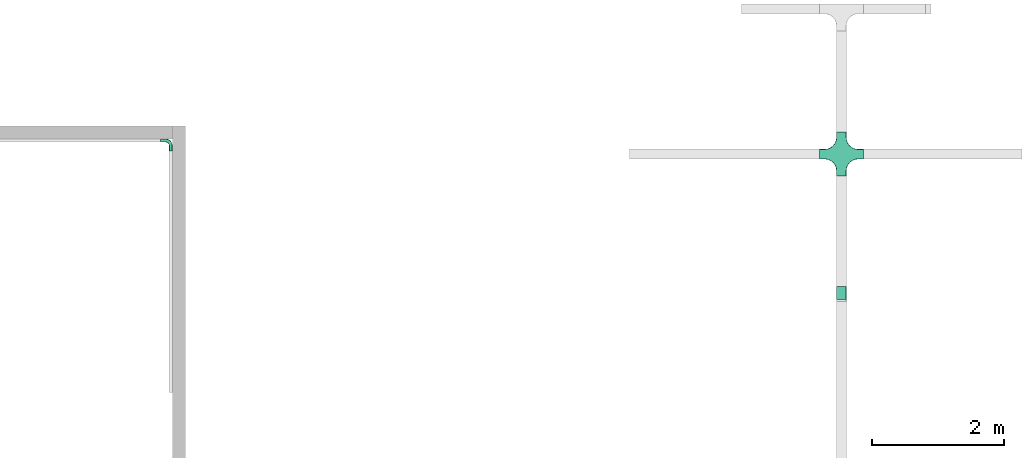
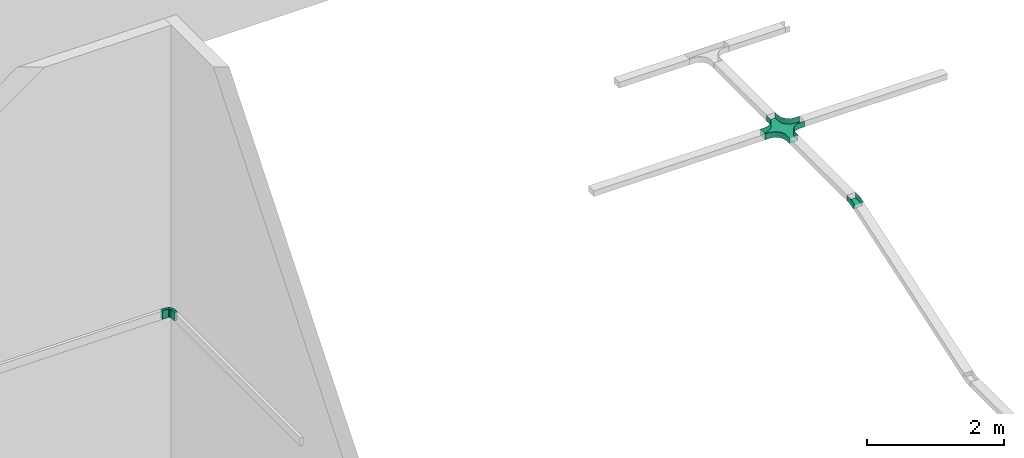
# One storey, part 41 of 197: 3 flow fittings.
"""IFC2X3 building model written with IfcOpenShell, lengths in metres."""

from ifc_helpers import new_model, entity, si_unit, converted_unit, direction, frame, origin, place, context, subcontext, project, spatial, faceted_brep, source, transform, mapped, material, type_object, type_shapes, element, save


model = new_model("IFC2X3")

# Units and contexts
model_context = context("Model", 3, precision=1e-05, world=origin(), true_north=direction((6.123031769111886e-17, 1.0)))
body_context = subcontext(model_context, "Body", "Model", "MODEL_VIEW")
ifc_project = project(units=[si_unit("LENGTHUNIT", "METRE"), converted_unit("PLANEANGLEUNIT", "DEGREE", entity("IfcPlaneAngleMeasure", 0.017453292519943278), si_unit("PLANEANGLEUNIT", "RADIAN"), dimensions=[0, 0, 0, 0, 0, 0, 0]), si_unit("AREAUNIT", "SQUARE_METRE")], contexts=[model_context])

# Site, building, storey
site_placement = place(None, origin())
site = spatial("IfcSite", under=ifc_project, at=site_placement, Name="Default", CompositionType="ELEMENT")
building_placement = place(site_placement, origin())
building = spatial("IfcBuilding", under=site, at=building_placement, CompositionType="ELEMENT")
storey_placement = place(building_placement, origin())
storey = spatial("IfcBuildingStorey", under=building, at=storey_placement, Name="Niveau 0", CompositionType="ELEMENT", Elevation=0.0)

# Flow fittings
ifc_material = material(Name="<Unnamed>")
cable_carrier_fitting_type_1 = type_object("IfcCableCarrierFittingType", Name="Chemin de câbles - Courbure convexe:CDC CFA", PredefinedType="NOTDEFINED", material=ifc_material)
shared_shape_1 = source(origin(), body_context, "Body", "Brep", [
    faceted_brep([(-0.10757218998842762, -0.050000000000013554, -0.07500000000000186), (-0.10757218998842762, -0.050000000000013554, -0.07246000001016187), (-0.10757218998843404, 0.04746000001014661, -0.07246000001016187), (-0.10757218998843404, 0.047460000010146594, 0.07246000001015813), (-0.10757218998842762, -0.050000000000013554, 0.07246000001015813), (-0.10757218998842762, -0.050000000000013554, 0.07499999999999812), (-0.10757218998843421, 0.04999999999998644, 0.07499999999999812), (-0.10757218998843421, 0.04999999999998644, -0.07500000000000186), (-0.03257218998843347, -0.050000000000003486, 0.07499999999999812), (-0.023983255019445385, -0.04930517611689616, 0.07499999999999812), (-0.012479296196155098, -0.04837453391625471, 0.07499999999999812), (-0.0024328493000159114, -0.04756180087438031, 0.07499999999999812), (0.007613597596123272, -0.046749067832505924, 0.07499999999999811), (0.01739876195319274, -0.04433200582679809, 0.07499999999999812), (0.027183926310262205, -0.04191494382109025, 0.07499999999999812), (0.03838869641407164, -0.03914722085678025, 0.07499999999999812), (0.0467542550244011, -0.03708081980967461, 0.07499999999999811), (0.11787850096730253, -0.013282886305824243, 0.0749999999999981), (0.08614792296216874, 0.08154944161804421, 0.0749999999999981), (0.015023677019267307, 0.05775150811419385, 0.07499999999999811), (-0.008460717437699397, 0.05195055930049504, 0.07499999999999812), (-0.03257218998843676, 0.04999999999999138, 0.07499999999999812), (-0.03257218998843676, 0.04999999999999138, -0.07500000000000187), (-0.008460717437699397, 0.05195055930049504, -0.07500000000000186), (0.015023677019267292, 0.05775150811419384, -0.07500000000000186), (0.08614792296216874, 0.0815494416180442, -0.07500000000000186), (0.11787850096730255, -0.013282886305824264, -0.07500000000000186), (0.04675425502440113, -0.03708081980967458, -0.07500000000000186), (0.038388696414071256, -0.03914722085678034, -0.07500000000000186), (0.027183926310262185, -0.04191494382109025, -0.07500000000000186), (0.01739876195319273, -0.04433200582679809, -0.07500000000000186), (0.007613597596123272, -0.046749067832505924, -0.07500000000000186), (-0.003890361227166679, -0.047679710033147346, -0.07500000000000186), (-0.01539432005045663, -0.048610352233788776, -0.07500000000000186), (-0.03257218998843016, -0.050000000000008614, -0.07500000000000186), (-0.03257218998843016, -0.050000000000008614, -0.07246000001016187), (-0.03257218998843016, -0.050000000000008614, 0.07246000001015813), (-0.022525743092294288, -0.0491872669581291, -0.07246000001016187), (-0.012479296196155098, -0.04837453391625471, -0.07246000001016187), (-0.002432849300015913, -0.04756180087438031, -0.07246000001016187), (0.007613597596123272, -0.046749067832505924, -0.07246000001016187), (0.017398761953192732, -0.04433200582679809, -0.07246000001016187), (0.0271839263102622, -0.04191494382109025, -0.07246000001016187), (0.036969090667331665, -0.03949788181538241, -0.07246000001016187), (0.0467542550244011, -0.03708081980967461, -0.07246000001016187), (0.11787850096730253, -0.013282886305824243, -0.07246000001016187), (0.08695387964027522, 0.07914070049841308, -0.07246000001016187), (0.015829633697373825, 0.055342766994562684, -0.07246000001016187), (-0.008052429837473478, 0.049443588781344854, -0.07246000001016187), (-0.03257218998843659, 0.047460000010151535, -0.07246000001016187), (-0.03257218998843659, 0.04746000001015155, 0.07246000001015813), (-0.008052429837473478, 0.049443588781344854, 0.07246000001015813), (0.015829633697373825, 0.05534276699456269, 0.07246000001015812), (0.08695387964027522, 0.07914070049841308, 0.07246000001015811), (0.11787850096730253, -0.013282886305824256, 0.07246000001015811), (0.04675425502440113, -0.03708081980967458, 0.07246000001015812), (0.036969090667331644, -0.03949788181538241, 0.07246000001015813), (0.027183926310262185, -0.04191494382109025, 0.07246000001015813), (0.017398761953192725, -0.04433200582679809, 0.07246000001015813), (0.007613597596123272, -0.046749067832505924, 0.07246000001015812), (-0.0024328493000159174, -0.04756180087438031, 0.07246000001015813), (-0.012479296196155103, -0.04837453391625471, 0.07246000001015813), (-0.022525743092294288, -0.0491872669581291, 0.07246000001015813)], [[[0, 1, 2, 3, 4, 5, 6, 7]], [[5, 8, 9, 10, 11, 12, 13, 14, 15, 16, 17, 18, 19, 20, 21, 6]], [[7, 6, 21, 22]], [[7, 22, 23, 24, 25, 26, 27, 28, 29, 30, 31, 32, 33, 34, 0]], [[1, 0, 34, 35]], [[5, 4, 36, 8]], [[1, 35, 37, 38, 39, 40, 41, 42, 43, 44, 45, 46, 47, 48, 49, 2]], [[3, 2, 49, 50]], [[3, 50, 51, 52, 53, 54, 55, 56, 57, 58, 59, 60, 61, 62, 36, 4]], [[22, 21, 20, 23]], [[19, 24, 23, 20]], [[33, 32, 31, 40, 39, 38, 37, 35, 34]], [[61, 60, 59, 12, 11, 10, 9, 8, 36, 62]], [[42, 41, 40, 31, 30, 29, 28, 27, 44, 43]], [[12, 59, 58, 57, 56, 55, 16, 15, 14, 13]], [[51, 50, 49, 48]], [[51, 48, 47, 52]], [[25, 18, 17, 54, 53, 46, 45, 26]], [[24, 19, 18, 25]], [[44, 27, 26, 45]], [[16, 55, 54, 17]], [[52, 47, 46, 53]]]),
])
type_shapes(cable_carrier_fitting_type_1, [shared_shape_1])
flow_fitting_1_placement = place(storey_placement, frame((-510.12398006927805, 149.4978039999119, 2.7499999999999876), z_axis=(-1.0, 0.0, 0.0), x_axis=(0.0, 0.9483232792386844, 0.31730578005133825)))
element("IfcFlowFitting", 1, at=flow_fitting_1_placement, inside=storey, type_object=cable_carrier_fitting_type_1, material=ifc_material, Name="Chemin de câbles - Courbure convexe:CDC CFA", ObjectType="Chemin de câbles - Courbure convexe:CDC CFA", context=body_context, shape_type="MappedRepresentation", body=[
    mapped(shared_shape_1, transform((0.0, 0.0, 0.0), scale=1.0)),
])
cable_carrier_fitting_type_2 = type_object("IfcCableCarrierFittingType", Name="Chemin de câbles - Croix:CDC CFA", PredefinedType="NOTDEFINED", material=ifc_material)
shared_shape_2 = source(origin(), body_context, "Body", "Brep", [
    faceted_brep([(-0.0811333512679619, 0.20841257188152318, 0.04999999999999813), (-0.0991154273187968, 0.1649999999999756, 0.04999999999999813), (-0.12772077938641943, 0.1277207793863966, 0.04999999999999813), (-0.1650000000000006, 0.09911542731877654, 0.04999999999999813), (-0.20841257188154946, 0.08113335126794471, 0.04999999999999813), (-0.25500000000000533, 0.07499999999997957, 0.04999999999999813), (-0.3349999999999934, 0.07499999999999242, 0.04999999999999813), (-0.3349999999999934, 0.07246000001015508, 0.04999999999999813), (-0.255000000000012, 0.07246000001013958, 0.04999999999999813), (-0.2077551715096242, 0.07867989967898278, 0.04999999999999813), (-0.1637300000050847, 0.09691572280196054, 0.04999999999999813), (-0.12592472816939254, 0.12592472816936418, 0.04999999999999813), (-0.09691572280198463, 0.16373000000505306, 0.04999999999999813), (-0.078679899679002, 0.20775517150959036, 0.04999999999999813), (-0.07246000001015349, 0.25499999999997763, 0.04999999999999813), (-0.07246000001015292, 0.3349999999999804, 0.04999999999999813), (-0.07499999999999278, 0.3349999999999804, 0.04999999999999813), (-0.07499999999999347, 0.25499999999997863, 0.04999999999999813), (0.20841257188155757, -0.08113335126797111, 0.04999999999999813), (0.2550000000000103, -0.07500000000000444, 0.04999999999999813), (0.33500000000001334, -0.07500000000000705, 0.04999999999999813), (0.33500000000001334, -0.07246000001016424, 0.04999999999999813), (0.2550000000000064, -0.07246000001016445, 0.04999999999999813), (0.2077551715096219, -0.07867989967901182, 0.04999999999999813), (0.16373000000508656, -0.09691572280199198, 0.04999999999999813), (0.12592472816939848, -0.12592472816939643, 0.04999999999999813), (0.09691572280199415, -0.16373000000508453, 0.04999999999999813), (0.07867989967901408, -0.20775517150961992, 0.04999999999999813), (0.0724600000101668, -0.25500000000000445, 0.04999999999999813), (0.0724600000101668, -0.33500000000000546, 0.04999999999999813), (0.0750000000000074, -0.33500000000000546, 0.04999999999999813), (0.07500000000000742, -0.2550000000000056, 0.04999999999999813), (0.08113335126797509, -0.20841257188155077, 0.04999999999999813), (0.09911542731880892, -0.16500000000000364, 0.04999999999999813), (0.12772077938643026, -0.1277207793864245, 0.04999999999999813), (0.16500000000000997, -0.09911542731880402, 0.04999999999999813), (-0.2549999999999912, -0.07246000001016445, 0.04999999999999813), (-0.3349999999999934, -0.07246000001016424, 0.04999999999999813), (-0.3349999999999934, -0.07500000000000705, 0.04999999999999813), (-0.254999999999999, -0.07500000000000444, 0.04999999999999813), (-0.20841257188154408, -0.0811333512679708, 0.04999999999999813), (-0.1649999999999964, -0.0991154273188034, 0.04999999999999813), (-0.12772077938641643, -0.12772077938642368, 0.04999999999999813), (-0.09911542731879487, -0.16500000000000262, 0.04999999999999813), (-0.08113335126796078, -0.20841257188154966, 0.04999999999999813), (-0.0749999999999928, -0.25500000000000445, 0.04999999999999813), (-0.07499999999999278, -0.33500000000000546, 0.04999999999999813), (-0.07246000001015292, -0.33500000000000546, 0.04999999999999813), (-0.0724600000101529, -0.2550000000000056, 0.04999999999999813), (-0.07867989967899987, -0.20775517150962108, 0.04999999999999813), (-0.09691572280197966, -0.16373000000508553, 0.04999999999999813), (-0.12592472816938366, -0.12592472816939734, 0.04999999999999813), (-0.16373000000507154, -0.09691572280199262, 0.04999999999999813), (-0.2077551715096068, -0.07867989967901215, 0.04999999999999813), (0.0750000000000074, 0.3349999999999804, 0.04999999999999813), (0.0724600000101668, 0.3349999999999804, 0.04999999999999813), (0.07246000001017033, 0.254999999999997, 0.04999999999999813), (0.0786798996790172, 0.207755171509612, 0.04999999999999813), (0.09691572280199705, 0.1637300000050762, 0.04999999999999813), (0.1259247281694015, 0.1259247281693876, 0.04999999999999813), (0.16373000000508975, 0.09691572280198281, 0.04999999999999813), (0.20775517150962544, 0.07867989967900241, 0.04999999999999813), (0.2550000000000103, 0.07246000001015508, 0.04999999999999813), (0.33500000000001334, 0.07246000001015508, 0.04999999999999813), (0.33500000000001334, 0.07499999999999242, 0.04999999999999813), (0.2550000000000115, 0.07499999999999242, 0.04999999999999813), (0.2084125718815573, 0.08113335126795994, 0.04999999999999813), (0.16500000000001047, 0.09911542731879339, 0.04999999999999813), (0.1277207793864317, 0.1277207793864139, 0.04999999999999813), (0.09911542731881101, 0.16499999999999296, 0.04999999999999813), (0.08113335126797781, 0.20841257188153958, 0.04999999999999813), (0.07500000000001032, 0.2549999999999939, 0.04999999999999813), (-0.08113335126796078, -0.20841257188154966, -0.05000000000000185), (-0.09911542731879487, -0.16500000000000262, -0.05000000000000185), (-0.12772077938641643, -0.12772077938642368, -0.05000000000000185), (-0.1649999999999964, -0.0991154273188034, -0.05000000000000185), (-0.20841257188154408, -0.0811333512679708, -0.05000000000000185), (-0.25499999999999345, -0.07500000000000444, -0.05000000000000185), (-0.3349999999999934, -0.07500000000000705, -0.05000000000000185), (-0.3349999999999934, 0.07499999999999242, -0.05000000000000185), (-0.2550000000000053, 0.07499999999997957, -0.05000000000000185), (-0.20841257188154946, 0.08113335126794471, -0.05000000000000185), (-0.1650000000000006, 0.09911542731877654, -0.05000000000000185), (-0.12772077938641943, 0.1277207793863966, -0.05000000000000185), (-0.0991154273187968, 0.1649999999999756, -0.05000000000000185), (-0.0811333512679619, 0.20841257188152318, -0.05000000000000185), (-0.07499999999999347, 0.2549999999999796, -0.05000000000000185), (-0.07499999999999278, 0.3349999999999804, -0.05000000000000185), (0.0750000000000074, 0.3349999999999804, -0.05000000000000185), (0.07500000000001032, 0.2549999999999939, -0.05000000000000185), (0.08113335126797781, 0.20841257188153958, -0.05000000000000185), (0.09911542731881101, 0.16499999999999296, -0.05000000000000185), (0.1277207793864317, 0.1277207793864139, -0.05000000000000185), (0.16500000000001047, 0.09911542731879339, -0.05000000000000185), (0.2084125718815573, 0.08113335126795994, -0.05000000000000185), (0.2550000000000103, 0.07499999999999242, -0.05000000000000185), (0.33500000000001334, 0.07499999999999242, -0.05000000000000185), (0.33500000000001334, -0.07500000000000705, -0.05000000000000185), (0.25500000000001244, -0.07500000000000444, -0.05000000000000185), (0.20841257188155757, -0.08113335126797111, -0.05000000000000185), (0.16500000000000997, -0.09911542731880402, -0.05000000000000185), (0.12772077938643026, -0.1277207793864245, -0.05000000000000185), (0.09911542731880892, -0.16500000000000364, -0.05000000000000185), (0.08113335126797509, -0.20841257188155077, -0.05000000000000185), (0.07500000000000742, -0.2550000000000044, -0.05000000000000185), (0.0750000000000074, -0.33500000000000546, -0.05000000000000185), (-0.07499999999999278, -0.33500000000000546, -0.05000000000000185), (-0.0749999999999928, -0.25500000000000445, -0.05000000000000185), (-0.0749999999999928, -0.25500000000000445, -0.04746000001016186), (-0.07499999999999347, 0.25499999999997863, -0.047460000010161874), (0.07246000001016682, -0.33500000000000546, -0.04746000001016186), (-0.07246000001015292, -0.33500000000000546, -0.047460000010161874), (-0.07246000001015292, -0.2550000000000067, -0.047460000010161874), (-0.07246000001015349, 0.25499999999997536, -0.04746000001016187), (-0.07246000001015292, 0.3349999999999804, -0.04746000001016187), (-0.078679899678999, -0.2077551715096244, -0.04746000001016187), (-0.09691572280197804, -0.1637300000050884, -0.04746000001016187), (-0.12592472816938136, -0.12592472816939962, -0.04746000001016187), (-0.16373000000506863, -0.09691572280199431, -0.04746000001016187), (-0.20775517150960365, -0.07867989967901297, -0.04746000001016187), (-0.2549999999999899, -0.07246000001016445, -0.04746000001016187), (-0.3349999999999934, -0.07246000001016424, -0.047460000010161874), (0.33500000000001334, -0.07246000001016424, -0.047460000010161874), (0.2550000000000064, -0.07246000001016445, -0.047460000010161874), (-0.3349999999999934, 0.07246000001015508, -0.047460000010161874), (-0.25500000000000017, -0.07500000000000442, -0.047460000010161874), (0.25500000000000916, -0.07500000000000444, -0.04746000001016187), (0.07500000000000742, -0.2550000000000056, -0.04746000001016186), (0.33500000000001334, 0.07246000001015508, -0.04746000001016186), (0.20775517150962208, -0.07867989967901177, -0.04746000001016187), (0.16373000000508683, -0.0969157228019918, -0.04746000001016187), (0.12592472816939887, -0.125924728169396, -0.04746000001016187), (0.09691572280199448, -0.16373000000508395, -0.04746000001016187), (0.07867989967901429, -0.20775517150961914, -0.04746000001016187), (0.07246000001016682, -0.2550000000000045, -0.04746000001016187), (0.07246000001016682, 0.3349999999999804, -0.04746000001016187), (0.07246000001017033, 0.2549999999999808, -0.04746000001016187), (0.07500000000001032, 0.2549999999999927, -0.04746000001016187), (-0.07867989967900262, 0.2077551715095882, -0.04746000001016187), (-0.09691572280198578, 0.16373000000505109, -0.04746000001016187), (-0.12592472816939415, 0.12592472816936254, -0.04746000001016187), (-0.16373000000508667, 0.09691572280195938, -0.04746000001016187), (-0.2077551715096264, 0.07867989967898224, -0.04746000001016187), (-0.2550000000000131, 0.07246000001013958, -0.04746000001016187), (0.255000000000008, 0.07246000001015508, -0.04746000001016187), (0.20775517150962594, 0.07867989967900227, -0.04746000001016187), (0.16373000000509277, 0.09691572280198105, -0.04746000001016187), (0.1259247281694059, 0.12592472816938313, -0.04746000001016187), (0.09691572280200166, 0.1637300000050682, -0.04746000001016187), (0.07867989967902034, 0.20775517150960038, -0.04746000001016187), (-0.2550000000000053, 0.07499999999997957, -0.04746000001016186), (0.2550000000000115, 0.07499999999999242, -0.047460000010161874)], [[[0, 1, 2, 3, 4, 5, 6, 7, 8, 9, 10, 11, 12, 13, 14, 15, 16, 17]], [[18, 19, 20, 21, 22, 23, 24, 25, 26, 27, 28, 29, 30, 31, 32, 33, 34, 35]], [[36, 37, 38, 39, 40, 41, 42, 43, 44, 45, 46, 47, 48, 49, 50, 51, 52, 53]], [[54, 55, 56, 57, 58, 59, 60, 61, 62, 63, 64, 65, 66, 67, 68, 69, 70, 71]], [[72, 73, 74, 75, 76, 77, 78, 79, 80, 81, 82, 83, 84, 85, 86, 87, 88, 89, 90, 91, 92, 93, 94, 95, 96, 97, 98, 99, 100, 101, 102, 103, 104, 105, 106, 107]], [[46, 45, 108, 107, 106]], [[17, 16, 87, 86, 109]], [[47, 46, 106, 105, 30, 29, 110, 111]], [[48, 47, 111, 112]], [[15, 14, 113, 114]], [[49, 115, 116, 50]], [[50, 116, 117, 51]], [[112, 115, 49, 48]], [[52, 118, 119, 53]], [[53, 119, 120, 36]], [[51, 117, 118, 52]], [[37, 36, 120, 121]], [[22, 21, 122, 123]], [[7, 6, 79, 78, 38, 37, 121, 124]], [[39, 38, 78, 77, 125]], [[20, 19, 126, 98, 97]], [[40, 39, 125, 77, 76]], [[41, 40, 76, 75]], [[75, 74, 42, 41]], [[43, 42, 74, 73]], [[44, 43, 73, 72]], [[45, 44, 72, 107, 108]], [[32, 31, 127, 104, 103]], [[103, 102, 33, 32]], [[33, 102, 101, 34]], [[18, 35, 100, 99]], [[18, 99, 98, 126, 19]], [[100, 35, 34, 101]], [[21, 20, 97, 96, 64, 63, 128, 122]], [[123, 129, 23, 22]], [[130, 24, 23, 129]], [[24, 130, 131, 25]], [[26, 132, 133, 27]], [[27, 133, 134, 28]], [[25, 131, 132, 26]], [[29, 28, 134, 110]], [[56, 55, 135, 136]], [[31, 30, 105, 104, 127]], [[54, 71, 137, 89, 88]], [[138, 139, 140, 141, 142, 143, 124, 121, 120, 119, 118, 117, 116, 115, 112, 111, 110, 134, 133, 132, 131, 130, 129, 123, 122, 128, 144, 145, 146, 147, 148, 149, 136, 135, 114, 113]], [[6, 5, 150, 80, 79]], [[65, 64, 96, 95, 151]], [[8, 7, 124, 143]], [[63, 62, 144, 128]], [[9, 142, 141, 10]], [[10, 141, 140, 11]], [[143, 142, 9, 8]], [[12, 139, 138, 13]], [[13, 138, 113, 14]], [[11, 140, 139, 12]], [[55, 54, 88, 87, 16, 15, 114, 135]], [[0, 17, 109, 86, 85]], [[83, 2, 1, 84]], [[1, 0, 85, 84]], [[4, 3, 82, 81]], [[4, 81, 80, 150, 5]], [[82, 3, 2, 83]], [[148, 147, 59, 58]], [[56, 136, 149, 57]], [[57, 149, 148, 58]], [[60, 146, 145, 61]], [[61, 145, 144, 62]], [[59, 147, 146, 60]], [[151, 95, 94, 66, 65]], [[93, 92, 68, 67]], [[93, 67, 66, 94]], [[70, 69, 91, 90]], [[70, 90, 89, 137, 71]], [[91, 69, 68, 92]]]),
])
type_shapes(cable_carrier_fitting_type_2, [shared_shape_2])
flow_fitting_2_placement = place(storey_placement, frame((-510.12398006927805, 151.61891437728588, 2.7500000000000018), z_axis=(0.0, 0.0, 1.0), x_axis=(-1.0, 0.0, 0.0)))
element("IfcFlowFitting", 2, at=flow_fitting_2_placement, inside=storey, type_object=cable_carrier_fitting_type_2, material=ifc_material, Name="Chemin de câbles - Croix:CDC CFA", ObjectType="Chemin de câbles - Croix:CDC CFA", context=body_context, shape_type="MappedRepresentation", body=[
    mapped(shared_shape_2, transform((0.0, 0.0, 0.0), scale=1.0)),
])
cable_carrier_fitting_type_3 = type_object("IfcCableCarrierFittingType", Name="Chemin de câbles - Courbure:GOULOTTE", PredefinedType="NOTDEFINED", material=ifc_material)
shared_shape_3 = source(origin(), body_context, "Body", "Brep", [
    faceted_brep([(-0.1549999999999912, -0.022460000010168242, -0.07246000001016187), (-0.1549999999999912, 0.02246000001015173, -0.07246000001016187), (-0.1549999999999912, 0.02246000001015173, 0.07499999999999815), (-0.1549999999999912, 0.024999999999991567, 0.07499999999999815), (-0.1549999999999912, 0.024999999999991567, -0.07500000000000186), (-0.1549999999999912, -0.02500000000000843, -0.07500000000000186), (-0.1549999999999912, -0.02500000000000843, 0.07499999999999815), (-0.1549999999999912, -0.02246000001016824, 0.07499999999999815), (-0.07499999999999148, -0.02500000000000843, -0.07500000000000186), (-0.07499999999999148, -0.02500000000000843, 0.07499999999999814), (-0.04409830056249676, -0.020105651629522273, 0.07499999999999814), (-0.0162214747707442, -0.005901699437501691, 0.07499999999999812), (0.005901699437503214, 0.016221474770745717, 0.07499999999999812), (0.020105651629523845, 0.04409830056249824, 0.07499999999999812), (0.02500000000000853, 0.07499999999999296, 0.07499999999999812), (0.0250000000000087, 0.15499999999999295, 0.07499999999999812), (0.022460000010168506, 0.15499999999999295, 0.07499999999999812), (0.0224600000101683, 0.07499999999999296, 0.07499999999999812), (0.0176899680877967, 0.044883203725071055, 0.07499999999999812), (0.003846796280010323, 0.01771444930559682, 0.07499999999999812), (-0.01771444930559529, -0.0038467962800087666, 0.07499999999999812), (-0.04488320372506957, -0.01768996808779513, 0.07499999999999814), (-0.07499999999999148, -0.022460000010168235, 0.07499999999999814), (-0.07499999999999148, 0.02246000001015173, 0.07499999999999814), (-0.06494690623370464, 0.024459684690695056, 0.07499999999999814), (-0.0548938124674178, 0.02645936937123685, 0.07499999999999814), (-0.046371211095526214, 0.032153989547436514, 0.07499999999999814), (-0.03784860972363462, 0.037848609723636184, 0.07499999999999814), (-0.03215398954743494, 0.04637121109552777, 0.07499999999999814), (-0.02645936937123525, 0.05489381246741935, 0.07499999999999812), (-0.023985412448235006, 0.06733123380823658, 0.07499999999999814), (-0.02246000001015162, 0.07499999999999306, 0.07499999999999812), (-0.022460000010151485, 0.15499999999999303, 0.07499999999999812), (-0.02499999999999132, 0.15499999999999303, 0.07499999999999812), (-0.024999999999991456, 0.07499999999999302, 0.07499999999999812), (-0.026392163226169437, 0.06800112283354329, 0.07499999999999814), (-0.028806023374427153, 0.05586582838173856, 0.07499999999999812), (-0.03422534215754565, 0.04775524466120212, 0.07499999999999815), (-0.03964466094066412, 0.039644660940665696, 0.07499999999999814), (-0.04775524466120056, 0.034225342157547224, 0.07499999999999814), (-0.055865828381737, 0.028806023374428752, 0.07499999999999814), (-0.06543291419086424, 0.026903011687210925, 0.07499999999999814), (-0.07499999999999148, 0.024999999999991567, 0.07499999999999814), (-0.07499999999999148, -0.022460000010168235, -0.0724600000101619), (-0.04488320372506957, -0.01768996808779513, -0.07246000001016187), (-0.01771444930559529, -0.0038467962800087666, -0.07246000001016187), (0.003846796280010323, 0.01771444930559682, -0.07246000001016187), (0.0176899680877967, 0.044883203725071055, -0.07246000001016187), (0.02246000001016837, 0.07499999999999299, -0.07246000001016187), (0.022460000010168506, 0.15499999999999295, -0.07246000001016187), (-0.022460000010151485, 0.15499999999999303, -0.07246000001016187), (-0.02246000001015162, 0.07499999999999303, -0.07246000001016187), (-0.024459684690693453, 0.0649469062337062, -0.07246000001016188), (-0.02645936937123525, 0.05489381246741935, -0.07246000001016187), (-0.03215398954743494, 0.046371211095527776, -0.07246000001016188), (-0.03784860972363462, 0.03784860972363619, -0.07246000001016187), (-0.046371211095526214, 0.03215398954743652, -0.07246000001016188), (-0.0548938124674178, 0.02645936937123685, -0.07246000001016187), (-0.06494690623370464, 0.024459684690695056, -0.07246000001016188), (-0.07499999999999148, 0.02246000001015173, -0.07246000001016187), (-0.07499999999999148, 0.024999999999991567, -0.07500000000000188), (-0.04409830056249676, -0.020105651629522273, -0.07500000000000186), (-0.06543291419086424, 0.026903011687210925, -0.07500000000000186), (-0.055865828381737, 0.028806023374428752, -0.07500000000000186), (-0.04775524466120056, 0.034225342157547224, -0.07500000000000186), (-0.03964466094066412, 0.039644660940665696, -0.07500000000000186), (-0.03422534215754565, 0.04775524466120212, -0.07500000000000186), (-0.028806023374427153, 0.05586582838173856, -0.07500000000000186), (-0.02690301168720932, 0.06543291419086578, -0.07500000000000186), (-0.024999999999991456, 0.07499999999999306, -0.07500000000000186), (-0.02499999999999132, 0.15499999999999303, -0.07500000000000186), (0.0250000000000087, 0.15499999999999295, -0.07500000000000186), (0.02500000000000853, 0.07499999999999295, -0.07500000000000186), (0.020105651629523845, 0.04409830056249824, -0.07500000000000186), (0.005901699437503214, 0.016221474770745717, -0.07500000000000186), (-0.0162214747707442, -0.005901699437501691, -0.07500000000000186)], [[[0, 1, 2, 3, 4, 5, 6, 7]], [[6, 5, 8, 9]], [[7, 6, 9, 10, 11, 12, 13, 14, 15, 16, 17, 18, 19, 20, 21, 22]], [[2, 23, 24, 25, 26, 27, 28, 29, 30, 31, 32, 33, 34, 35, 36, 37, 38, 39, 40, 41, 42, 3]], [[0, 7, 22, 43]], [[1, 0, 43, 44, 45, 46, 47, 48, 49, 50, 51, 52, 53, 54, 55, 56, 57, 58, 59]], [[2, 1, 59, 23]], [[4, 3, 42, 60]], [[61, 8, 5, 4, 60, 62, 63, 64, 65, 66, 67, 68, 69, 70, 71, 72, 73, 74, 75]], [[61, 75, 11, 10]], [[8, 61, 10, 9]], [[75, 74, 12, 11]], [[12, 74, 73, 13]], [[13, 73, 72, 14]], [[20, 45, 44, 21]], [[22, 21, 44, 43]], [[20, 19, 46, 45]], [[47, 46, 19, 18]], [[48, 47, 18, 17]], [[57, 25, 24, 23, 59, 58]], [[55, 27, 26, 25, 57, 56]], [[51, 31, 30, 29, 53, 52]], [[27, 55, 54, 53, 29, 28]], [[62, 60, 42, 41, 40, 63]], [[39, 38, 65, 64, 63, 40]], [[35, 34, 69, 68, 67, 36]], [[66, 65, 38, 37, 36, 67]], [[70, 33, 32, 50, 49, 16, 15, 71]], [[14, 72, 71, 15]], [[48, 17, 16, 49]], [[31, 51, 50, 32]], [[69, 34, 33, 70]]]),
])
type_shapes(cable_carrier_fitting_type_3, [shared_shape_3])
flow_fitting_3_placement = place(storey_placement, frame((-520.3145951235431, 151.82535524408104, 2.9257853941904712), z_axis=(0.0, 0.0, 1.0), x_axis=(0.0, 1.0, 0.0)))
element("IfcFlowFitting", 3, at=flow_fitting_3_placement, inside=storey, type_object=cable_carrier_fitting_type_3, material=ifc_material, Name="Chemin de câbles - Courbure:GOULOTTE", ObjectType="Chemin de câbles - Courbure:GOULOTTE", context=body_context, shape_type="MappedRepresentation", body=[
    mapped(shared_shape_3, transform((0.0, 0.0, 0.0), scale=1.0)),
])

save(model, "model.ifc")
